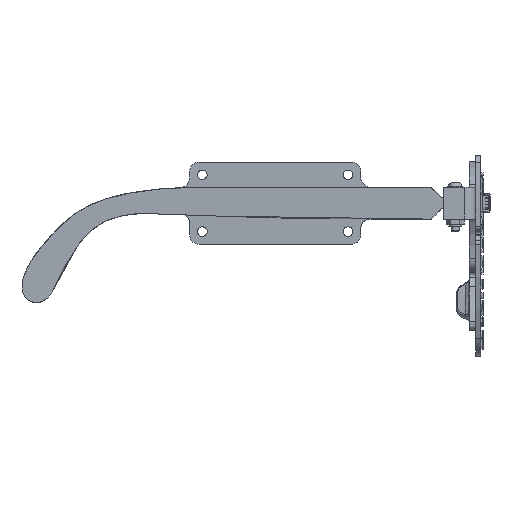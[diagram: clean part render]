
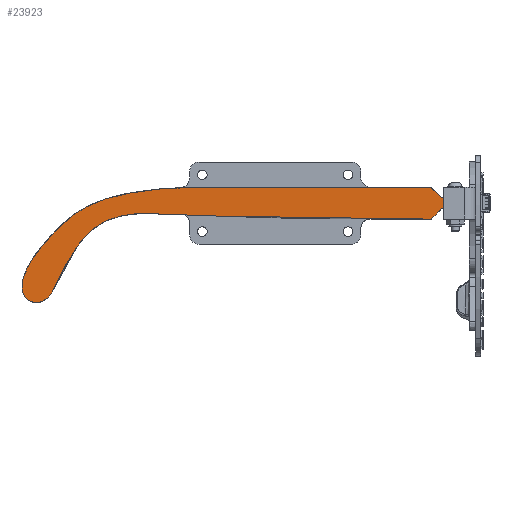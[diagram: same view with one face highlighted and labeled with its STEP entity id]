
A CAD part, left-side view. The second image highlights one B-rep face of the part: STEP entity #23923.
In plain terms, the highlighted planar face has unit normal (-1, 0, 0).
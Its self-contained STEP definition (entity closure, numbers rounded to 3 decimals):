
#180=B_SPLINE_CURVE_WITH_KNOTS('',3,(#41983,#41984,#41985,#41986,#41987,
#41988,#41989,#41990,#41991,#41992,#41993,#41994,#41995,#41996,#41997,#41998,
#41999,#42000,#42001,#42002,#42003,#42004,#42005,#42006,#42007,#42008,#42009,
#42010,#42011,#42012,#42013,#42014,#42015,#42016,#42017,#42018,#42019,#42020,
#42021,#42022,#42023,#42024,#42025,#42026,#42027,#42028,#42029,#42030,#42031,
#42032,#42033,#42034,#42035,#42036,#42037,#42038,#42039,#42040,#42041,#42042,
#42043,#42044,#42045,#42046,#42047,#42048,#42049,#42050,#42051,#42052),
 .UNSPECIFIED.,.F.,.F.,(4,3,3,3,3,3,3,3,3,3,3,3,3,3,3,3,3,3,3,3,3,3,3,4),
(-20.692,-17.33,-16.593,-14.238,
-12.598,-11.635,-10.439,-7.76,
-7.607,-7.321,-6.723,-6.269,-5.869,
-5.545,-5.24,-4.933,-4.645,
-4.034,-3.832,-2.701,-2.27,
-1.639,-1.299,0.),.UNSPECIFIED.);
#2301=PLANE('',#26208);
#3503=FACE_OUTER_BOUND('',#5203,.T.);
#5203=EDGE_LOOP('',(#21865,#21866,#21867,#21868,#21869,#21870,#21871));
#7486=LINE('',#41947,#9755);
#7490=LINE('',#41956,#9759);
#7492=LINE('',#41964,#9761);
#7495=LINE('',#41971,#9764);
#7499=LINE('',#41981,#9768);
#7500=LINE('',#42053,#9769);
#9755=VECTOR('',#32591,10.);
#9759=VECTOR('',#32599,10.);
#9761=VECTOR('',#32607,10.);
#9764=VECTOR('',#32614,10.);
#9768=VECTOR('',#32626,10.);
#9769=VECTOR('',#32627,10.);
#12548=VERTEX_POINT('',#41944);
#12549=VERTEX_POINT('',#41946);
#12551=VERTEX_POINT('',#41951);
#12554=VERTEX_POINT('',#41960);
#12557=VERTEX_POINT('',#41970);
#12559=VERTEX_POINT('',#41980);
#12560=VERTEX_POINT('',#41982);
#15651=EDGE_CURVE('',#12549,#12548,#7486,.F.);
#15656=EDGE_CURVE('',#12551,#12549,#7490,.T.);
#15660=EDGE_CURVE('',#12551,#12554,#7492,.T.);
#15663=EDGE_CURVE('',#12557,#12554,#7495,.T.);
#15668=EDGE_CURVE('',#12548,#12559,#7499,.F.);
#15669=EDGE_CURVE('',#12559,#12560,#180,.F.);
#15670=EDGE_CURVE('',#12560,#12557,#7500,.F.);
#21865=ORIENTED_EDGE('',*,*,#15660,.F.);
#21866=ORIENTED_EDGE('',*,*,#15656,.T.);
#21867=ORIENTED_EDGE('',*,*,#15651,.T.);
#21868=ORIENTED_EDGE('',*,*,#15668,.T.);
#21869=ORIENTED_EDGE('',*,*,#15669,.T.);
#21870=ORIENTED_EDGE('',*,*,#15670,.T.);
#21871=ORIENTED_EDGE('',*,*,#15663,.T.);
#23923=ADVANCED_FACE('',(#3503),#2301,.F.);
#26208=AXIS2_PLACEMENT_3D('',#41979,#32624,#32625);
#32591=DIRECTION('',(0.,-0.707,-0.707));
#32599=DIRECTION('',(0.,1.,0.));
#32607=DIRECTION('',(0.,0.,-1.));
#32614=DIRECTION('',(0.,-1.,0.));
#32624=DIRECTION('center_axis',(1.,0.,0.));
#32625=DIRECTION('ref_axis',(0.,0.,-1.));
#32626=DIRECTION('',(0.,-1.,0.));
#32627=DIRECTION('',(0.,0.707,-0.707));
#41944=CARTESIAN_POINT('',(-77.468,14.,28.));
#41946=CARTESIAN_POINT('',(-77.468,10.8,24.8));
#41947=CARTESIAN_POINT('',(-77.468,24.606,38.606));
#41951=CARTESIAN_POINT('',(-77.468,6.4,24.8));
#41956=CARTESIAN_POINT('',(-77.468,45.94,24.8));
#41960=CARTESIAN_POINT('',(-77.468,6.4,21.2));
#41964=CARTESIAN_POINT('',(-77.468,6.4,17.101));
#41970=CARTESIAN_POINT('',(-77.468,10.8,21.2));
#41971=CARTESIAN_POINT('',(-77.468,39.94,21.2));
#41979=CARTESIAN_POINT('Origin',(-77.468,76.981,9.202));
#41980=CARTESIAN_POINT('',(-77.468,87.,28.));
#41981=CARTESIAN_POINT('',(-77.468,81.99,28.));
#41982=CARTESIAN_POINT('',(-77.468,13.999,18.001));
#41983=CARTESIAN_POINT('Ctrl Pts',(-77.468,13.999,18.001));
#41984=CARTESIAN_POINT('Ctrl Pts',(-77.468,47.525,18.012));
#41985=CARTESIAN_POINT('Ctrl Pts',(-77.468,63.299,18.226));
#41986=CARTESIAN_POINT('Ctrl Pts',(-77.468,75.103,18.708));
#41987=CARTESIAN_POINT('Ctrl Pts',(-77.468,77.692,18.814));
#41988=CARTESIAN_POINT('Ctrl Pts',(-77.468,80.137,18.936));
#41989=CARTESIAN_POINT('Ctrl Pts',(-77.468,82.368,19.061));
#41990=CARTESIAN_POINT('Ctrl Pts',(-77.468,89.494,19.461));
#41991=CARTESIAN_POINT('Ctrl Pts',(-77.468,94.498,19.885));
#41992=CARTESIAN_POINT('Ctrl Pts',(-77.468,99.132,19.973));
#41993=CARTESIAN_POINT('Ctrl Pts',(-77.468,102.36,20.034));
#41994=CARTESIAN_POINT('Ctrl Pts',(-77.468,105.443,19.935));
#41995=CARTESIAN_POINT('Ctrl Pts',(-77.468,108.278,19.542));
#41996=CARTESIAN_POINT('Ctrl Pts',(-77.468,109.942,19.31));
#41997=CARTESIAN_POINT('Ctrl Pts',(-77.468,111.554,18.969));
#41998=CARTESIAN_POINT('Ctrl Pts',(-77.468,113.019,18.519));
#41999=CARTESIAN_POINT('Ctrl Pts',(-77.468,114.839,17.961));
#42000=CARTESIAN_POINT('Ctrl Pts',(-77.468,116.417,17.25));
#42001=CARTESIAN_POINT('Ctrl Pts',(-77.468,117.826,16.4));
#42002=CARTESIAN_POINT('Ctrl Pts',(-77.468,120.984,14.495));
#42003=CARTESIAN_POINT('Ctrl Pts',(-77.468,123.363,11.855));
#42004=CARTESIAN_POINT('Ctrl Pts',(-77.468,125.483,8.742));
#42005=CARTESIAN_POINT('Ctrl Pts',(-77.468,125.604,8.564));
#42006=CARTESIAN_POINT('Ctrl Pts',(-77.468,125.71,8.406));
#42007=CARTESIAN_POINT('Ctrl Pts',(-77.468,125.849,8.194));
#42008=CARTESIAN_POINT('Ctrl Pts',(-77.468,126.11,7.8));
#42009=CARTESIAN_POINT('Ctrl Pts',(-77.468,126.529,7.15));
#42010=CARTESIAN_POINT('Ctrl Pts',(-77.468,127.022,6.335));
#42011=CARTESIAN_POINT('Ctrl Pts',(-77.468,128.054,4.631));
#42012=CARTESIAN_POINT('Ctrl Pts',(-77.468,129.45,2.227));
#42013=CARTESIAN_POINT('Ctrl Pts',(-77.468,130.488,-0.013));
#42014=CARTESIAN_POINT('Ctrl Pts',(-77.468,131.275,-1.712));
#42015=CARTESIAN_POINT('Ctrl Pts',(-77.468,131.879,-3.342));
#42016=CARTESIAN_POINT('Ctrl Pts',(-77.468,132.787,-4.807));
#42017=CARTESIAN_POINT('Ctrl Pts',(-77.468,133.587,-6.098));
#42018=CARTESIAN_POINT('Ctrl Pts',(-77.468,134.656,-7.275));
#42019=CARTESIAN_POINT('Ctrl Pts',(-77.468,136.056,-7.835));
#42020=CARTESIAN_POINT('Ctrl Pts',(-77.468,137.19,-8.29));
#42021=CARTESIAN_POINT('Ctrl Pts',(-77.468,138.489,-8.279));
#42022=CARTESIAN_POINT('Ctrl Pts',(-77.468,139.599,-7.782));
#42023=CARTESIAN_POINT('Ctrl Pts',(-77.468,140.645,-7.313));
#42024=CARTESIAN_POINT('Ctrl Pts',(-77.468,141.479,-6.431));
#42025=CARTESIAN_POINT('Ctrl Pts',(-77.468,141.906,-5.362));
#42026=CARTESIAN_POINT('Ctrl Pts',(-77.468,142.335,-4.29));
#42027=CARTESIAN_POINT('Ctrl Pts',(-77.468,142.369,-3.105));
#42028=CARTESIAN_POINT('Ctrl Pts',(-77.468,142.194,-1.939));
#42029=CARTESIAN_POINT('Ctrl Pts',(-77.468,142.029,-0.839));
#42030=CARTESIAN_POINT('Ctrl Pts',(-77.468,141.692,0.217));
#42031=CARTESIAN_POINT('Ctrl Pts',(-77.468,141.271,1.241));
#42032=CARTESIAN_POINT('Ctrl Pts',(-77.468,140.38,3.408));
#42033=CARTESIAN_POINT('Ctrl Pts',(-77.468,139.064,5.48));
#42034=CARTESIAN_POINT('Ctrl Pts',(-77.468,137.952,7.047));
#42035=CARTESIAN_POINT('Ctrl Pts',(-77.468,137.585,7.565));
#42036=CARTESIAN_POINT('Ctrl Pts',(-77.468,137.265,7.995));
#42037=CARTESIAN_POINT('Ctrl Pts',(-77.468,136.904,8.467));
#42038=CARTESIAN_POINT('Ctrl Pts',(-77.468,134.88,11.107));
#42039=CARTESIAN_POINT('Ctrl Pts',(-77.468,131.705,14.691));
#42040=CARTESIAN_POINT('Ctrl Pts',(-77.468,128.406,17.518));
#42041=CARTESIAN_POINT('Ctrl Pts',(-77.468,127.149,18.596));
#42042=CARTESIAN_POINT('Ctrl Pts',(-77.468,125.918,19.531));
#42043=CARTESIAN_POINT('Ctrl Pts',(-77.468,124.516,20.428));
#42044=CARTESIAN_POINT('Ctrl Pts',(-77.468,122.463,21.743));
#42045=CARTESIAN_POINT('Ctrl Pts',(-77.468,120.074,22.937));
#42046=CARTESIAN_POINT('Ctrl Pts',(-77.468,117.09,23.978));
#42047=CARTESIAN_POINT('Ctrl Pts',(-77.468,115.488,24.537));
#42048=CARTESIAN_POINT('Ctrl Pts',(-77.468,113.683,25.059));
#42049=CARTESIAN_POINT('Ctrl Pts',(-77.468,111.74,25.516));
#42050=CARTESIAN_POINT('Ctrl Pts',(-77.468,104.296,27.267));
#42051=CARTESIAN_POINT('Ctrl Pts',(-77.468,95.308,28.));
#42052=CARTESIAN_POINT('Ctrl Pts',(-77.468,87.,28.));
#42053=CARTESIAN_POINT('',(-77.468,27.97,4.03));
